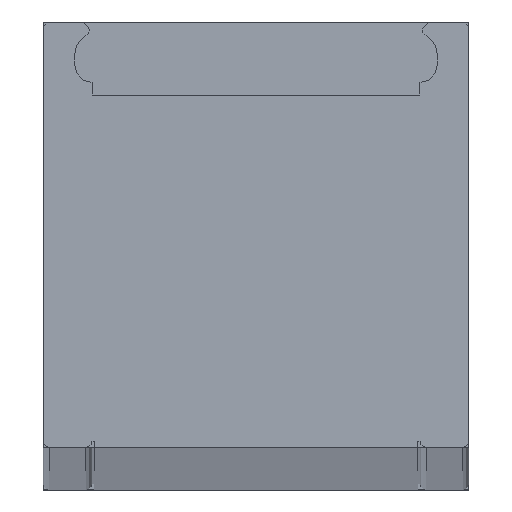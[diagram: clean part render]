
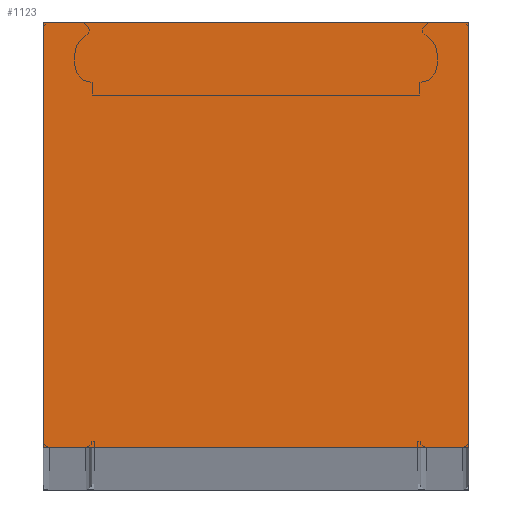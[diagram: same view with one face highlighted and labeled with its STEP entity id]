
A CAD part, top view. The second image highlights one B-rep face of the part: STEP entity #1123.
In plain terms, the highlighted planar face has unit normal (0, 0, 1).
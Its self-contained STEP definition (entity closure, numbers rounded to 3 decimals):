
#36 = VERTEX_POINT ( 'NONE', #3680 ) ;
#173 = CARTESIAN_POINT ( 'NONE',  ( 0., 0., 1005. ) ) ;
#321 = VECTOR ( 'NONE', #3390, 1000. ) ;
#414 = EDGE_CURVE ( 'NONE', #2130, #36, #1124, .T. ) ;
#958 = FACE_OUTER_BOUND ( 'NONE', #3067, .T. ) ;
#961 = DIRECTION ( 'NONE',  ( 0., -1., 0. ) ) ;
#981 = ORIENTED_EDGE ( 'NONE', *, *, #414, .T. ) ;
#1047 = VERTEX_POINT ( 'NONE', #1988 ) ;
#1049 = EDGE_CURVE ( 'NONE', #1504, #2130, #2146, .T. ) ;
#1101 = DIRECTION ( 'NONE',  ( -1., 0., 0. ) ) ;
#1123 = ADVANCED_FACE ( 'NONE', ( #958 ), #2108, .T. ) ;
#1124 = LINE ( 'NONE', #2227, #321 ) ;
#1182 = CARTESIAN_POINT ( 'NONE',  ( 0., 0., 1005. ) ) ;
#1337 = VECTOR ( 'NONE', #3211, 1000. ) ;
#1365 = LINE ( 'NONE', #3228, #2990 ) ;
#1402 = ORIENTED_EDGE ( 'NONE', *, *, #2734, .T. ) ;
#1504 = VERTEX_POINT ( 'NONE', #3008 ) ;
#1988 = CARTESIAN_POINT ( 'NONE',  ( 0., 17.5, 1005. ) ) ;
#2108 = PLANE ( 'NONE',  #3528 ) ;
#2130 = VERTEX_POINT ( 'NONE', #3072 ) ;
#2146 = LINE ( 'NONE', #173, #1337 ) ;
#2227 = CARTESIAN_POINT ( 'NONE',  ( 17.509, 17.5, 1005. ) ) ;
#2533 = VECTOR ( 'NONE', #961, 1000. ) ;
#2734 = EDGE_CURVE ( 'NONE', #1047, #1504, #3425, .T. ) ;
#2778 = ORIENTED_EDGE ( 'NONE', *, *, #1049, .T. ) ;
#2990 = VECTOR ( 'NONE', #1101, 1000. ) ;
#3008 = CARTESIAN_POINT ( 'NONE',  ( 0., 0., 1005. ) ) ;
#3016 = DIRECTION ( 'NONE',  ( 0., 0., 1. ) ) ;
#3067 = EDGE_LOOP ( 'NONE', ( #1402, #2778, #981, #3502 ) ) ;
#3072 = CARTESIAN_POINT ( 'NONE',  ( 17.509, 0., 1005. ) ) ;
#3211 = DIRECTION ( 'NONE',  ( 1., 0., 0. ) ) ;
#3228 = CARTESIAN_POINT ( 'NONE',  ( 0., 17.5, 1005. ) ) ;
#3390 = DIRECTION ( 'NONE',  ( 0., 1., 0. ) ) ;
#3396 = CARTESIAN_POINT ( 'NONE',  ( 0., 17.5, 1005. ) ) ;
#3397 = EDGE_CURVE ( 'NONE', #36, #1047, #1365, .T. ) ;
#3425 = LINE ( 'NONE', #3396, #2533 ) ;
#3502 = ORIENTED_EDGE ( 'NONE', *, *, #3397, .T. ) ;
#3528 = AXIS2_PLACEMENT_3D ( 'NONE', #1182, #3016, #3928 ) ;
#3680 = CARTESIAN_POINT ( 'NONE',  ( 17.509, 17.5, 1005. ) ) ;
#3928 = DIRECTION ( 'NONE',  ( 1., 0., 0. ) ) ;
